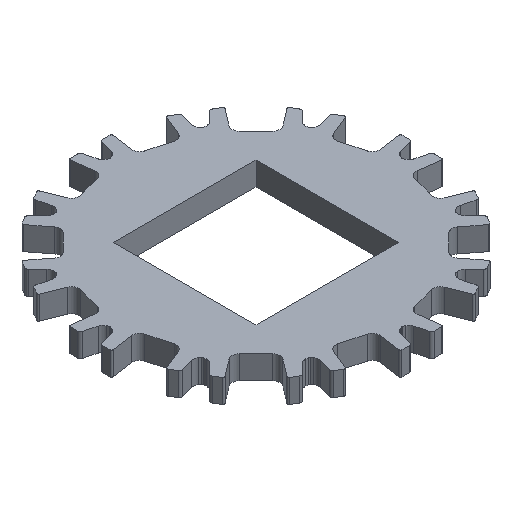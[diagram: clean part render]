
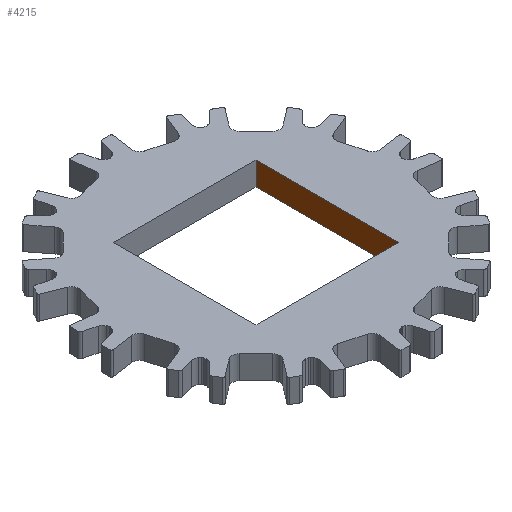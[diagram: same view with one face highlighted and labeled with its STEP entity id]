
A CAD part, isometric view. The second image highlights one B-rep face of the part: STEP entity #4215.
In plain terms, the highlighted planar face has unit normal (-1, 0, 0).
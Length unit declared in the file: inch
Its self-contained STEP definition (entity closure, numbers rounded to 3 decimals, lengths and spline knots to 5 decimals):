
#13=DIRECTION('',(0.,-1.,0.));
#14=VECTOR('',#13,1.);
#15=CARTESIAN_POINT('',(0.5,0.5,-0.082));
#16=LINE('',#15,#14);
#989=DIRECTION('',(0.,0.,1.));
#990=VECTOR('',#989,0.164);
#991=CARTESIAN_POINT('',(0.5,-0.5,-0.082));
#992=LINE('',#991,#990);
#993=DIRECTION('',(0.,0.,1.));
#994=VECTOR('',#993,0.164);
#995=CARTESIAN_POINT('',(0.5,0.5,-0.082));
#996=LINE('',#995,#994);
#1009=DIRECTION('',(0.,-1.,0.));
#1010=VECTOR('',#1009,1.);
#1011=CARTESIAN_POINT('',(0.5,0.5,0.082));
#1012=LINE('',#1011,#1010);
#2857=CARTESIAN_POINT('',(0.5,-0.5,-0.082));
#2859=VERTEX_POINT('',#2857);
#2863=CARTESIAN_POINT('',(0.5,0.5,-0.082));
#2864=VERTEX_POINT('',#2863);
#3297=CARTESIAN_POINT('',(0.5,-0.5,0.082));
#3299=VERTEX_POINT('',#3297);
#3303=CARTESIAN_POINT('',(0.5,0.5,0.082));
#3304=VERTEX_POINT('',#3303);
#4202=CARTESIAN_POINT('',(0.5,0.5,-0.082));
#4203=DIRECTION('',(-1.,0.,0.));
#4204=DIRECTION('',(0.,-1.,0.));
#4205=AXIS2_PLACEMENT_3D('',#4202,#4203,#4204);
#4206=PLANE('',#4205);
#4207=ORIENTED_EDGE('',*,*,#4182,.F.);
#4209=ORIENTED_EDGE('',*,*,#4208,.T.);
#4211=ORIENTED_EDGE('',*,*,#4210,.T.);
#4212=ORIENTED_EDGE('',*,*,#4193,.F.);
#4213=EDGE_LOOP('',(#4207,#4209,#4211,#4212));
#4214=FACE_OUTER_BOUND('',#4213,.F.);
#4215=ADVANCED_FACE('',(#4214),#4206,.T.);
#4182=EDGE_CURVE('',#2864,#2859,#16,.T.);
#4193=EDGE_CURVE('',#2859,#3299,#992,.T.);
#4208=EDGE_CURVE('',#2864,#3304,#996,.T.);
#4210=EDGE_CURVE('',#3304,#3299,#1012,.T.);
